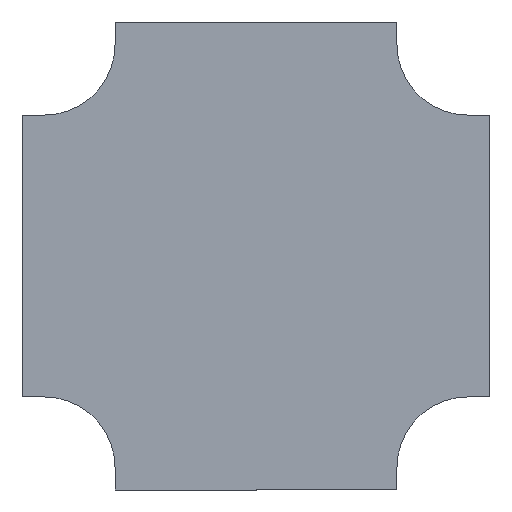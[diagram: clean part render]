
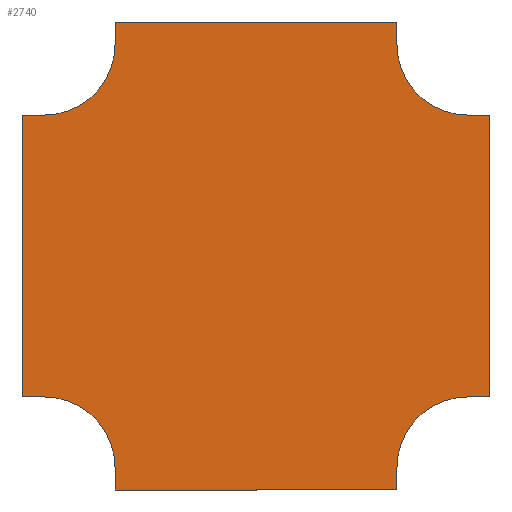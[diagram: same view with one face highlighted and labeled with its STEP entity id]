
A CAD part, front view. The second image highlights one B-rep face of the part: STEP entity #2740.
In plain terms, the highlighted planar face has unit normal (0, -1, 0).
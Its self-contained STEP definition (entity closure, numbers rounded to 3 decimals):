
#32 = DIRECTION ( 'NONE',  ( 0., 0., -1. ) ) ;
#53 = CARTESIAN_POINT ( 'NONE',  ( -750., 0., 0. ) ) ;
#68 = DIRECTION ( 'NONE',  ( 0., 0., 1. ) ) ;
#138 = EDGE_CURVE ( 'NONE', #2436, #371, #2751, .T. ) ;
#150 = CARTESIAN_POINT ( 'NONE',  ( -750., 0., -125. ) ) ;
#181 = LINE ( 'NONE', #1216, #1403 ) ;
#209 = EDGE_CURVE ( 'NONE', #388, #274, #1552, .T. ) ;
#268 = AXIS2_PLACEMENT_3D ( 'NONE', #1343, #2873, #2262 ) ;
#274 = VERTEX_POINT ( 'NONE', #2676 ) ;
#282 = VECTOR ( 'NONE', #1515, 1000. ) ;
#293 = ORIENTED_EDGE ( 'NONE', *, *, #2293, .F. ) ;
#324 = VECTOR ( 'NONE', #2076, 1000. ) ;
#351 = EDGE_CURVE ( 'NONE', #1093, #698, #1030, .T. ) ;
#371 = VERTEX_POINT ( 'NONE', #451 ) ;
#384 = VERTEX_POINT ( 'NONE', #943 ) ;
#388 = VERTEX_POINT ( 'NONE', #2439 ) ;
#432 = VECTOR ( 'NONE', #3223, 1000. ) ;
#445 = CARTESIAN_POINT ( 'NONE',  ( -625., 0., 40. ) ) ;
#451 = CARTESIAN_POINT ( 'NONE',  ( 0., 0., -625. ) ) ;
#474 = EDGE_CURVE ( 'NONE', #274, #1110, #2188, .T. ) ;
#475 = CARTESIAN_POINT ( 'NONE',  ( 40., 0., -125. ) ) ;
#510 = VECTOR ( 'NONE', #1744, 1000. ) ;
#518 = CARTESIAN_POINT ( 'NONE',  ( -790., 0., -625. ) ) ;
#524 = EDGE_CURVE ( 'NONE', #3204, #2427, #2134, .T. ) ;
#545 = DIRECTION ( 'NONE',  ( -1., 0., 0. ) ) ;
#609 = VECTOR ( 'NONE', #2345, 1000. ) ;
#652 = AXIS2_PLACEMENT_3D ( 'NONE', #2394, #1645, #2665 ) ;
#659 = VECTOR ( 'NONE', #1203, 1000. ) ;
#668 = AXIS2_PLACEMENT_3D ( 'NONE', #53, #1082, #68 ) ;
#698 = VERTEX_POINT ( 'NONE', #788 ) ;
#701 = ORIENTED_EDGE ( 'NONE', *, *, #1935, .F. ) ;
#738 = CARTESIAN_POINT ( 'NONE',  ( -625., 0., -790. ) ) ;
#761 = DIRECTION ( 'NONE',  ( -1., 0., 0. ) ) ;
#788 = CARTESIAN_POINT ( 'NONE',  ( -750., 0., -625. ) ) ;
#820 = ORIENTED_EDGE ( 'NONE', *, *, #1599, .F. ) ;
#861 = DIRECTION ( 'NONE',  ( 0., -1., 0. ) ) ;
#943 = CARTESIAN_POINT ( 'NONE',  ( -625., 0., 0. ) ) ;
#950 = VERTEX_POINT ( 'NONE', #2833 ) ;
#981 = CARTESIAN_POINT ( 'NONE',  ( -625., 0., -790. ) ) ;
#1006 = ORIENTED_EDGE ( 'NONE', *, *, #1097, .F. ) ;
#1030 = CIRCLE ( 'NONE', #268, 125. ) ;
#1082 = DIRECTION ( 'NONE',  ( 0., -1., 0. ) ) ;
#1093 = VERTEX_POINT ( 'NONE', #2910 ) ;
#1097 = EDGE_CURVE ( 'NONE', #371, #1641, #2083, .T. ) ;
#1101 = CIRCLE ( 'NONE', #668, 125. ) ;
#1110 = VERTEX_POINT ( 'NONE', #475 ) ;
#1119 = CARTESIAN_POINT ( 'NONE',  ( -125., 0., -750. ) ) ;
#1132 = VECTOR ( 'NONE', #761, 1000. ) ;
#1149 = EDGE_LOOP ( 'NONE', ( #1717, #3180, #3050, #293, #820, #1262, #1431, #2667, #701, #1907, #1006, #2181, #2755, #1408, #1252, #2783 ) ) ;
#1203 = DIRECTION ( 'NONE',  ( 0., 0., 1. ) ) ;
#1216 = CARTESIAN_POINT ( 'NONE',  ( 40., 0., -125. ) ) ;
#1252 = ORIENTED_EDGE ( 'NONE', *, *, #209, .F. ) ;
#1262 = ORIENTED_EDGE ( 'NONE', *, *, #3037, .F. ) ;
#1270 = LINE ( 'NONE', #738, #510 ) ;
#1314 = PLANE ( 'NONE',  #2526 ) ;
#1343 = CARTESIAN_POINT ( 'NONE',  ( -750., 0., -750. ) ) ;
#1391 = EDGE_CURVE ( 'NONE', #384, #3204, #2709, .T. ) ;
#1403 = VECTOR ( 'NONE', #2216, 1000. ) ;
#1408 = ORIENTED_EDGE ( 'NONE', *, *, #474, .F. ) ;
#1431 = ORIENTED_EDGE ( 'NONE', *, *, #351, .F. ) ;
#1487 = CARTESIAN_POINT ( 'NONE',  ( 0., 0., -625. ) ) ;
#1500 = LINE ( 'NONE', #2023, #1982 ) ;
#1515 = DIRECTION ( 'NONE',  ( 0., 0., -1. ) ) ;
#1552 = CIRCLE ( 'NONE', #1972, 125. ) ;
#1586 = EDGE_CURVE ( 'NONE', #1641, #950, #3086, .T. ) ;
#1599 = EDGE_CURVE ( 'NONE', #1959, #2201, #1500, .T. ) ;
#1612 = CARTESIAN_POINT ( 'NONE',  ( -125., 0., 40. ) ) ;
#1641 = VERTEX_POINT ( 'NONE', #1119 ) ;
#1645 = DIRECTION ( 'NONE',  ( 0., -1., 0. ) ) ;
#1663 = VECTOR ( 'NONE', #3059, 1000. ) ;
#1697 = EDGE_CURVE ( 'NONE', #2427, #388, #3155, .T. ) ;
#1717 = ORIENTED_EDGE ( 'NONE', *, *, #524, .F. ) ;
#1735 = LINE ( 'NONE', #2756, #2966 ) ;
#1744 = DIRECTION ( 'NONE',  ( -1., 0., 0. ) ) ;
#1801 = CARTESIAN_POINT ( 'NONE',  ( 0., 0., 0. ) ) ;
#1803 = VERTEX_POINT ( 'NONE', #1931 ) ;
#1837 = DIRECTION ( 'NONE',  ( 0., 0., 1. ) ) ;
#1855 = EDGE_CURVE ( 'NONE', #1110, #2436, #181, .T. ) ;
#1907 = ORIENTED_EDGE ( 'NONE', *, *, #1586, .F. ) ;
#1931 = CARTESIAN_POINT ( 'NONE',  ( -625., 0., -790. ) ) ;
#1935 = EDGE_CURVE ( 'NONE', #950, #1803, #1270, .T. ) ;
#1959 = VERTEX_POINT ( 'NONE', #518 ) ;
#1972 = AXIS2_PLACEMENT_3D ( 'NONE', #1801, #2809, #32 ) ;
#1982 = VECTOR ( 'NONE', #2511, 1000. ) ;
#1997 = CARTESIAN_POINT ( 'NONE',  ( -750., 0., -125. ) ) ;
#2023 = CARTESIAN_POINT ( 'NONE',  ( -790., 0., -125. ) ) ;
#2076 = DIRECTION ( 'NONE',  ( 1., 0., 0. ) ) ;
#2080 = CARTESIAN_POINT ( 'NONE',  ( 40., 0., -625. ) ) ;
#2083 = CIRCLE ( 'NONE', #652, 125. ) ;
#2119 = CARTESIAN_POINT ( 'NONE',  ( -625., 0., 40. ) ) ;
#2134 = LINE ( 'NONE', #2918, #324 ) ;
#2181 = ORIENTED_EDGE ( 'NONE', *, *, #138, .F. ) ;
#2188 = LINE ( 'NONE', #3211, #432 ) ;
#2197 = VECTOR ( 'NONE', #1837, 1000. ) ;
#2201 = VERTEX_POINT ( 'NONE', #2992 ) ;
#2216 = DIRECTION ( 'NONE',  ( 0., 0., -1. ) ) ;
#2262 = DIRECTION ( 'NONE',  ( 0., 0., -1. ) ) ;
#2293 = EDGE_CURVE ( 'NONE', #2201, #3254, #2758, .T. ) ;
#2339 = CARTESIAN_POINT ( 'NONE',  ( 0., 0., 0. ) ) ;
#2345 = DIRECTION ( 'NONE',  ( 0., 0., -1. ) ) ;
#2376 = DIRECTION ( 'NONE',  ( 0., 0., -1. ) ) ;
#2394 = CARTESIAN_POINT ( 'NONE',  ( 0., 0., -750. ) ) ;
#2427 = VERTEX_POINT ( 'NONE', #1612 ) ;
#2436 = VERTEX_POINT ( 'NONE', #2080 ) ;
#2439 = CARTESIAN_POINT ( 'NONE',  ( -125., 0., 0. ) ) ;
#2511 = DIRECTION ( 'NONE',  ( 0., 0., 1. ) ) ;
#2526 = AXIS2_PLACEMENT_3D ( 'NONE', #2339, #861, #2376 ) ;
#2565 = CARTESIAN_POINT ( 'NONE',  ( -125., 0., -790. ) ) ;
#2639 = EDGE_CURVE ( 'NONE', #1803, #1093, #3259, .T. ) ;
#2665 = DIRECTION ( 'NONE',  ( 0., 0., 1. ) ) ;
#2667 = ORIENTED_EDGE ( 'NONE', *, *, #2639, .F. ) ;
#2676 = CARTESIAN_POINT ( 'NONE',  ( 0., 0., -125. ) ) ;
#2709 = LINE ( 'NONE', #445, #659 ) ;
#2740 = ADVANCED_FACE ( 'NONE', ( #3137 ), #1314, .T. ) ;
#2751 = LINE ( 'NONE', #1487, #1132 ) ;
#2755 = ORIENTED_EDGE ( 'NONE', *, *, #1855, .F. ) ;
#2756 = CARTESIAN_POINT ( 'NONE',  ( -750., 0., -625. ) ) ;
#2758 = LINE ( 'NONE', #1997, #1663 ) ;
#2760 = EDGE_CURVE ( 'NONE', #3254, #384, #1101, .T. ) ;
#2783 = ORIENTED_EDGE ( 'NONE', *, *, #1697, .F. ) ;
#2809 = DIRECTION ( 'NONE',  ( 0., -1., 0. ) ) ;
#2833 = CARTESIAN_POINT ( 'NONE',  ( -125., 0., -790. ) ) ;
#2873 = DIRECTION ( 'NONE',  ( 0., -1., 0. ) ) ;
#2910 = CARTESIAN_POINT ( 'NONE',  ( -625., 0., -750. ) ) ;
#2918 = CARTESIAN_POINT ( 'NONE',  ( -625., 0., 40. ) ) ;
#2966 = VECTOR ( 'NONE', #545, 1000. ) ;
#2992 = CARTESIAN_POINT ( 'NONE',  ( -790., 0., -125. ) ) ;
#3037 = EDGE_CURVE ( 'NONE', #698, #1959, #1735, .T. ) ;
#3050 = ORIENTED_EDGE ( 'NONE', *, *, #2760, .F. ) ;
#3059 = DIRECTION ( 'NONE',  ( 1., 0., 0. ) ) ;
#3086 = LINE ( 'NONE', #2565, #282 ) ;
#3115 = CARTESIAN_POINT ( 'NONE',  ( -125., 0., 40. ) ) ;
#3137 = FACE_OUTER_BOUND ( 'NONE', #1149, .T. ) ;
#3155 = LINE ( 'NONE', #3115, #609 ) ;
#3180 = ORIENTED_EDGE ( 'NONE', *, *, #1391, .F. ) ;
#3204 = VERTEX_POINT ( 'NONE', #2119 ) ;
#3211 = CARTESIAN_POINT ( 'NONE',  ( 0., 0., -125. ) ) ;
#3223 = DIRECTION ( 'NONE',  ( 1., 0., 0. ) ) ;
#3254 = VERTEX_POINT ( 'NONE', #150 ) ;
#3259 = LINE ( 'NONE', #981, #2197 ) ;
